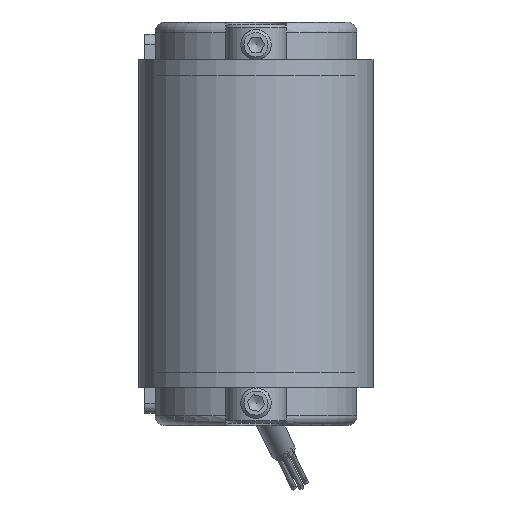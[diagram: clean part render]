
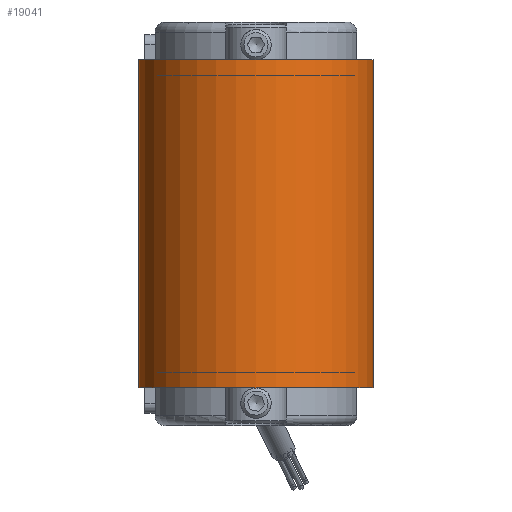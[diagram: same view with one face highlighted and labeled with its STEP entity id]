
A CAD part, front view. The second image highlights one B-rep face of the part: STEP entity #19041.
In plain terms, the highlighted cylindrical face has radius 23.3 mm (diameter 46.6 mm), a partial arc.
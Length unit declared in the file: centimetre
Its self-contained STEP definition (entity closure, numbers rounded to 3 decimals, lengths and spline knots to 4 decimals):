
#1490=FACE_OUTER_BOUND('',#2521,.T.);
#2521=EDGE_LOOP('',(#13165,#13166,#13167,#13168));
#3702=CIRCLE('',#20381,2.33);
#3705=CIRCLE('',#20387,2.33);
#4669=LINE('',#28060,#6213);
#4670=LINE('',#28064,#6214);
#6213=VECTOR('',#23019,1.);
#6214=VECTOR('',#23024,1.);
#7812=VERTEX_POINT('',#28043);
#7813=VERTEX_POINT('',#28044);
#7818=VERTEX_POINT('',#28058);
#7819=VERTEX_POINT('',#28062);
#9890=EDGE_CURVE('',#7812,#7813,#3702,.T.);
#9898=EDGE_CURVE('',#7818,#7813,#4669,.T.);
#9899=EDGE_CURVE('',#7818,#7819,#3705,.T.);
#9900=EDGE_CURVE('',#7812,#7819,#4670,.T.);
#13165=ORIENTED_EDGE('',*,*,#9899,.T.);
#13166=ORIENTED_EDGE('',*,*,#9900,.F.);
#13167=ORIENTED_EDGE('',*,*,#9890,.T.);
#13168=ORIENTED_EDGE('',*,*,#9898,.F.);
#17652=CYLINDRICAL_SURFACE('',#20386,2.33);
#19041=ADVANCED_FACE('',(#1490),#17652,.T.);
#20381=AXIS2_PLACEMENT_3D('',#28045,#23004,#23005);
#20386=AXIS2_PLACEMENT_3D('',#28061,#23020,#23021);
#20387=AXIS2_PLACEMENT_3D('',#28063,#23022,#23023);
#23004=DIRECTION('center_axis',(0.,0.,
-1.));
#23005=DIRECTION('ref_axis',(-1.,0.,0.));
#23019=DIRECTION('',(0.,0.,1.));
#23020=DIRECTION('center_axis',(0.,0.,
-1.));
#23021=DIRECTION('ref_axis',(-1.,0.,0.));
#23022=DIRECTION('center_axis',(0.,0.,
1.));
#23023=DIRECTION('ref_axis',(-1.,0.,0.));
#23024=DIRECTION('',(0.,0.,-1.));
#28043=CARTESIAN_POINT('',(2.33,-47.,3.25));
#28044=CARTESIAN_POINT('',(-2.33,-47.,3.25));
#28045=CARTESIAN_POINT('Origin',(0.,-47.,3.25));
#28058=CARTESIAN_POINT('',(-2.33,-47.,-3.25));
#28060=CARTESIAN_POINT('',(-2.33,-47.,0.));
#28061=CARTESIAN_POINT('Origin',(0.,-47.,0.));
#28062=CARTESIAN_POINT('',(2.33,-47.,-3.25));
#28063=CARTESIAN_POINT('Origin',(0.,-47.,-3.25));
#28064=CARTESIAN_POINT('',(2.33,-47.,0.));
